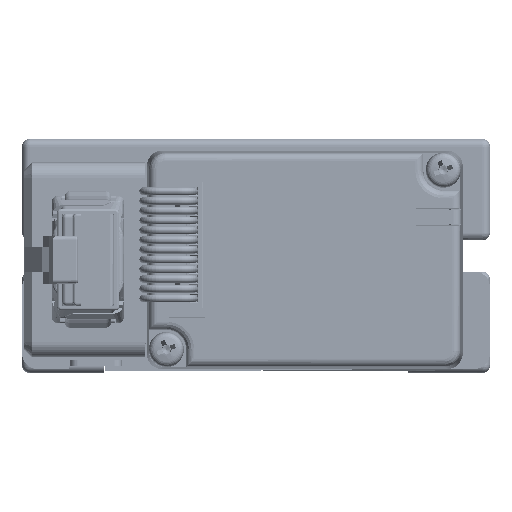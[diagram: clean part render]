
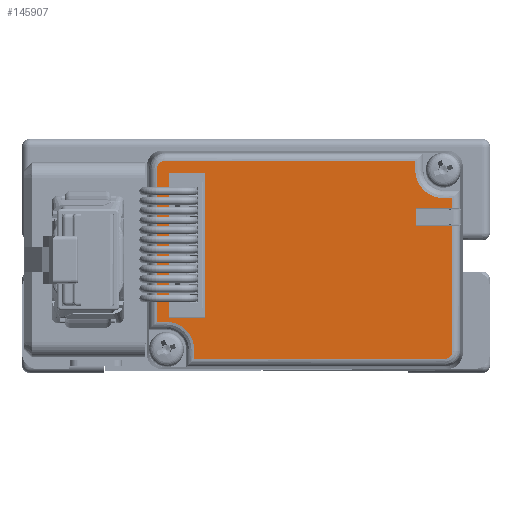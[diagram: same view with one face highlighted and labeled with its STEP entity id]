
A CAD part, front view. The second image highlights one B-rep face of the part: STEP entity #145907.
In plain terms, the highlighted planar face has unit normal (0, -1, 0) as drawn and (1, 0, 0) by its records, which use the part's own axes.
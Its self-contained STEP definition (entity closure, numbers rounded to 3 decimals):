
#714=(
BOUNDED_CURVE()
B_SPLINE_CURVE(3,(#289042,#289043,#289044,#289045),.UNSPECIFIED.,.F.,.F.)
B_SPLINE_CURVE_WITH_KNOTS((4,4),(2.357,3.927),
 .UNSPECIFIED.)
CURVE()
GEOMETRIC_REPRESENTATION_ITEM()
RATIONAL_B_SPLINE_CURVE((1.,0.805,0.805,1.))
REPRESENTATION_ITEM('')
);
#715=(
BOUNDED_CURVE()
B_SPLINE_CURVE(3,(#289151,#289152,#289153,#289154),.UNSPECIFIED.,.F.,.F.)
B_SPLINE_CURVE_WITH_KNOTS((4,4),(2.357,3.927),
 .UNSPECIFIED.)
CURVE()
GEOMETRIC_REPRESENTATION_ITEM()
RATIONAL_B_SPLINE_CURVE((1.,0.805,0.805,1.))
REPRESENTATION_ITEM('')
);
#12811=LINE('',#288939,#29675);
#12813=LINE('',#288989,#29677);
#12815=LINE('',#288995,#29679);
#12817=LINE('',#289051,#29681);
#12819=LINE('',#289057,#29683);
#12821=LINE('',#289098,#29685);
#12823=LINE('',#289104,#29687);
#12825=LINE('',#289160,#29689);
#12827=LINE('',#289169,#29691);
#12899=LINE('',#289430,#29763);
#12905=LINE('',#289440,#29769);
#12909=LINE('',#289448,#29773);
#12912=LINE('',#289454,#29776);
#12915=LINE('',#289460,#29779);
#12918=LINE('',#289466,#29782);
#12921=LINE('',#289472,#29785);
#29675=VECTOR('',#211264,1000.);
#29677=VECTOR('',#211274,1000.);
#29679=VECTOR('',#211280,1000.);
#29681=VECTOR('',#211288,1000.);
#29683=VECTOR('',#211294,1000.);
#29685=VECTOR('',#211306,1000.);
#29687=VECTOR('',#211312,1000.);
#29689=VECTOR('',#211320,1000.);
#29691=VECTOR('',#211324,1000.);
#29763=VECTOR('',#211458,1000.);
#29769=VECTOR('',#211466,1000.);
#29773=VECTOR('',#211472,1000.);
#29776=VECTOR('',#211477,1000.);
#29779=VECTOR('',#211482,1000.);
#29782=VECTOR('',#211487,1000.);
#29785=VECTOR('',#211492,1000.);
#39817=PLANE('',#186067);
#67429=ORIENTED_EDGE('',*,*,#97486,.F.);
#67430=ORIENTED_EDGE('',*,*,#97483,.F.);
#67431=ORIENTED_EDGE('',*,*,#97480,.F.);
#67432=ORIENTED_EDGE('',*,*,#97477,.F.);
#67433=ORIENTED_EDGE('',*,*,#97335,.T.);
#67434=ORIENTED_EDGE('',*,*,#97332,.T.);
#67435=ORIENTED_EDGE('',*,*,#97464,.F.);
#67436=ORIENTED_EDGE('',*,*,#97474,.F.);
#67437=ORIENTED_EDGE('',*,*,#97470,.F.);
#67438=ORIENTED_EDGE('',*,*,#97369,.T.);
#67439=ORIENTED_EDGE('',*,*,#97366,.T.);
#67440=ORIENTED_EDGE('',*,*,#97363,.T.);
#67441=ORIENTED_EDGE('',*,*,#97360,.T.);
#67442=ORIENTED_EDGE('',*,*,#97357,.T.);
#67443=ORIENTED_EDGE('',*,*,#97533,.T.);
#67444=ORIENTED_EDGE('',*,*,#97353,.T.);
#67445=ORIENTED_EDGE('',*,*,#97350,.T.);
#67446=ORIENTED_EDGE('',*,*,#97347,.T.);
#67447=ORIENTED_EDGE('',*,*,#97344,.T.);
#67448=ORIENTED_EDGE('',*,*,#97341,.T.);
#67449=ORIENTED_EDGE('',*,*,#97338,.T.);
#97332=EDGE_CURVE('',#114433,#114436,#12811,.T.);
#97335=EDGE_CURVE('',#114437,#114433,#121440,.T.);
#97338=EDGE_CURVE('',#114439,#114437,#12813,.T.);
#97341=EDGE_CURVE('',#114441,#114439,#12815,.T.);
#97344=EDGE_CURVE('',#114443,#114441,#714,.T.);
#97347=EDGE_CURVE('',#114445,#114443,#12817,.T.);
#97350=EDGE_CURVE('',#114447,#114445,#12819,.T.);
#97353=EDGE_CURVE('',#114450,#114447,#121445,.T.);
#97357=EDGE_CURVE('',#114451,#114454,#12821,.T.);
#97360=EDGE_CURVE('',#114455,#114451,#12823,.T.);
#97363=EDGE_CURVE('',#114457,#114455,#715,.T.);
#97366=EDGE_CURVE('',#114459,#114457,#12825,.T.);
#97369=EDGE_CURVE('',#114462,#114459,#12827,.T.);
#97464=EDGE_CURVE('',#114537,#114436,#12899,.T.);
#97470=EDGE_CURVE('',#114462,#114540,#12905,.T.);
#97474=EDGE_CURVE('',#114540,#114537,#12909,.T.);
#97477=EDGE_CURVE('',#114544,#114545,#12912,.T.);
#97480=EDGE_CURVE('',#114545,#114547,#12915,.T.);
#97483=EDGE_CURVE('',#114547,#114549,#12918,.T.);
#97486=EDGE_CURVE('',#114549,#114544,#12921,.T.);
#97533=EDGE_CURVE('',#114454,#114450,#121453,.T.);
#114433=VERTEX_POINT('',#288930);
#114436=VERTEX_POINT('',#288938);
#114437=VERTEX_POINT('',#288977);
#114439=VERTEX_POINT('',#288986);
#114441=VERTEX_POINT('',#288992);
#114443=VERTEX_POINT('',#289033);
#114445=VERTEX_POINT('',#289048);
#114447=VERTEX_POINT('',#289054);
#114450=VERTEX_POINT('',#289084);
#114451=VERTEX_POINT('',#289092);
#114454=VERTEX_POINT('',#289097);
#114455=VERTEX_POINT('',#289101);
#114457=VERTEX_POINT('',#289142);
#114459=VERTEX_POINT('',#289157);
#114462=VERTEX_POINT('',#289167);
#114537=VERTEX_POINT('',#289431);
#114540=VERTEX_POINT('',#289441);
#114544=VERTEX_POINT('',#289453);
#114545=VERTEX_POINT('',#289455);
#114547=VERTEX_POINT('',#289461);
#114549=VERTEX_POINT('',#289467);
#121440=CIRCLE('',#185993,1.);
#121445=CIRCLE('',#186004,1.);
#121453=CIRCLE('',#186068,1.);
#127798=EDGE_LOOP('',(#67429,#67430,#67431,#67432));
#127799=EDGE_LOOP('',(#67433,#67434,#67435,#67436,#67437,#67438,#67439,
#67440,#67441,#67442,#67443,#67444,#67445,#67446,#67447,#67448,#67449));
#136297=FACE_BOUND('',#127798,.T.);
#136298=FACE_BOUND('',#127799,.T.);
#145907=ADVANCED_FACE('',(#136297,#136298),#39817,.T.);
#185993=AXIS2_PLACEMENT_3D('',#288983,#211267,#211268);
#186004=AXIS2_PLACEMENT_3D('',#289089,#211297,#211298);
#186067=AXIS2_PLACEMENT_3D('',#289554,#211569,#211570);
#186068=AXIS2_PLACEMENT_3D('',#289555,#211571,#211572);
#211264=DIRECTION('',(0.,0.,1.));
#211267=DIRECTION('',(1.,0.,0.));
#211268=DIRECTION('',(0.,0.,-1.));
#211274=DIRECTION('',(0.,1.,0.));
#211280=DIRECTION('',(0.,0.,-1.));
#211288=DIRECTION('',(0.,1.,0.));
#211294=DIRECTION('',(0.,0.,-1.));
#211297=DIRECTION('',(1.,0.,0.));
#211298=DIRECTION('',(0.,-0.707,0.707));
#211306=DIRECTION('',(0.,-1.,0.));
#211312=DIRECTION('',(0.,0.,1.));
#211320=DIRECTION('',(0.,-1.,0.));
#211324=DIRECTION('',(0.,0.,1.));
#211458=DIRECTION('',(0.,1.,0.));
#211466=DIRECTION('',(0.,-1.,0.));
#211472=DIRECTION('',(0.,0.,-1.));
#211477=DIRECTION('',(0.,0.,-1.));
#211482=DIRECTION('',(0.,1.,0.));
#211487=DIRECTION('',(0.,0.,1.));
#211492=DIRECTION('',(0.,-1.,0.));
#211569=DIRECTION('',(1.,0.,0.));
#211570=DIRECTION('',(0.,0.,-1.));
#211571=DIRECTION('',(1.,0.,0.));
#211572=DIRECTION('',(0.,0.,1.));
#288930=CARTESIAN_POINT('',(13.,39.185,-25.686));
#288938=CARTESIAN_POINT('',(13.,39.185,-9.6));
#288939=CARTESIAN_POINT('',(13.,39.185,-9.6));
#288977=CARTESIAN_POINT('',(13.,38.186,-26.685));
#288983=CARTESIAN_POINT('',(13.,38.186,-25.686));
#288986=CARTESIAN_POINT('',(13.,6.074,-26.685));
#288989=CARTESIAN_POINT('',(13.,38.16,-26.685));
#288992=CARTESIAN_POINT('',(13.,6.074,-25.525));
#288995=CARTESIAN_POINT('',(13.,6.074,-27.66));
#289033=CARTESIAN_POINT('',(13.,2.475,-21.926));
#289042=CARTESIAN_POINT('',(13.,2.475,-21.926));
#289043=CARTESIAN_POINT('',(13.,4.584,-21.926));
#289044=CARTESIAN_POINT('',(13.,6.074,-23.416));
#289045=CARTESIAN_POINT('',(13.,6.074,-25.525));
#289048=CARTESIAN_POINT('',(13.,1.315,-21.926));
#289051=CARTESIAN_POINT('',(13.,2.501,-21.926));
#289054=CARTESIAN_POINT('',(13.,1.315,-2.314));
#289057=CARTESIAN_POINT('',(13.,1.315,-22.9));
#289084=CARTESIAN_POINT('',(13.,1.607,-1.607));
#289089=CARTESIAN_POINT('',(13.,2.314,-2.314));
#289092=CARTESIAN_POINT('',(13.,34.426,-1.315));
#289097=CARTESIAN_POINT('',(13.,2.314,-1.315));
#289098=CARTESIAN_POINT('',(13.,0.,-1.315));
#289101=CARTESIAN_POINT('',(13.,34.426,-2.475));
#289104=CARTESIAN_POINT('',(13.,34.426,-0.34));
#289142=CARTESIAN_POINT('',(13.,38.025,-6.074));
#289151=CARTESIAN_POINT('',(13.,38.025,-6.074));
#289152=CARTESIAN_POINT('',(13.,35.916,-6.074));
#289153=CARTESIAN_POINT('',(13.,34.426,-4.584));
#289154=CARTESIAN_POINT('',(13.,34.426,-2.475));
#289157=CARTESIAN_POINT('',(13.,39.185,-6.074));
#289160=CARTESIAN_POINT('',(13.,37.999,-6.074));
#289167=CARTESIAN_POINT('',(13.,39.185,-7.4));
#289169=CARTESIAN_POINT('',(13.,39.185,-5.1));
#289430=CARTESIAN_POINT('',(13.,40.5,-9.6));
#289431=CARTESIAN_POINT('',(13.,34.5,-9.6));
#289440=CARTESIAN_POINT('',(13.,40.5,-7.4));
#289441=CARTESIAN_POINT('',(13.,34.5,-7.4));
#289448=CARTESIAN_POINT('',(13.,34.5,-7.4));
#289453=CARTESIAN_POINT('',(13.,2.8,-2.8));
#289454=CARTESIAN_POINT('',(13.,2.8,-2.8));
#289455=CARTESIAN_POINT('',(13.,2.8,-21.4));
#289460=CARTESIAN_POINT('',(13.,7.5,-21.4));
#289461=CARTESIAN_POINT('',(13.,7.5,-21.4));
#289466=CARTESIAN_POINT('',(13.,7.5,-2.8));
#289467=CARTESIAN_POINT('',(13.,7.5,-2.8));
#289472=CARTESIAN_POINT('',(13.,7.5,-2.8));
#289554=CARTESIAN_POINT('',(13.,0.,0.));
#289555=CARTESIAN_POINT('',(13.,2.314,-2.314));
